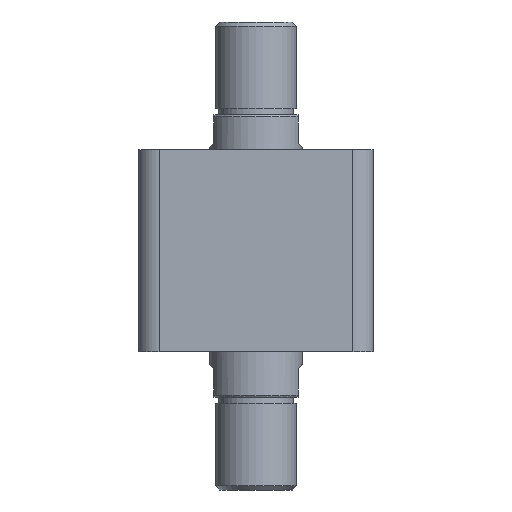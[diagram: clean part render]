
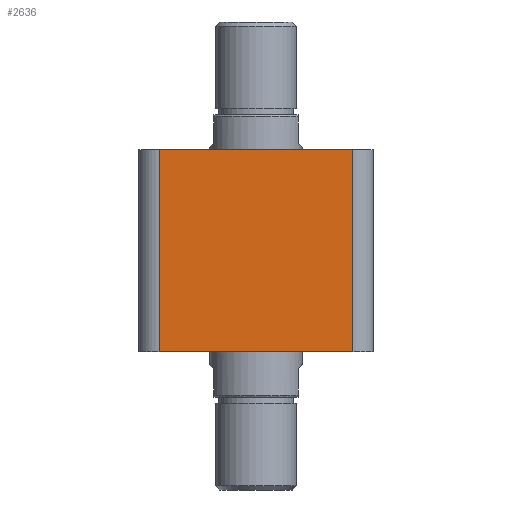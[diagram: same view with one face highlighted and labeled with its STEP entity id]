
A CAD part, front view. The second image highlights one B-rep face of the part: STEP entity #2636.
In plain terms, the highlighted planar face has unit normal (0, -1, 0).
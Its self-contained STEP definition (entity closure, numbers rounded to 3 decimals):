
#298 = CARTESIAN_POINT ( 'NONE',  ( 47., -57., 98. ) ) ;
#308 = CARTESIAN_POINT ( 'NONE',  ( -57., -57., 0. ) ) ;
#309 = DIRECTION ( 'NONE',  ( 1., 0., 0. ) ) ;
#310 = DIRECTION ( 'NONE',  ( 0., 0., 1. ) ) ;
#311 = CARTESIAN_POINT ( 'NONE',  ( -57., -57., 98. ) ) ;
#312 = DIRECTION ( 'NONE',  ( 1., 0., 0. ) ) ;
#313 = CARTESIAN_POINT ( 'NONE',  ( -47., -57., 98. ) ) ;
#314 = DIRECTION ( 'NONE',  ( 0., 0., -1. ) ) ;
#511 = CARTESIAN_POINT ( 'NONE',  ( 47., -57., 98. ) ) ;
#512 = CARTESIAN_POINT ( 'NONE',  ( -47., -57., 98. ) ) ;
#513 = CARTESIAN_POINT ( 'NONE',  ( 47., -57., 0. ) ) ;
#522 = CARTESIAN_POINT ( 'NONE',  ( -47., -57., 0. ) ) ;
#1040 = CARTESIAN_POINT ( 'NONE',  ( -57., -57., 98. ) ) ;
#1042 = PLANE ( 'NONE',  #2397 ) ;
#1045 = DIRECTION ( 'NONE',  ( 0., 1., 0. ) ) ;
#1046 = DIRECTION ( 'NONE',  ( 0., 0., 1. ) ) ;
#1291 = ORIENTED_EDGE ( 'NONE', *, *, #2739, .T. ) ;
#1621 = ORIENTED_EDGE ( 'NONE', *, *, #2738, .T. ) ;
#1660 = FACE_OUTER_BOUND ( 'NONE', #3024, .T. ) ;
#1822 = LINE ( 'NONE', #298, #1833 ) ;
#1828 = LINE ( 'NONE', #308, #1831 ) ;
#1831 = VECTOR ( 'NONE', #309, 1000. ) ;
#1832 = LINE ( 'NONE', #311, #1835 ) ;
#1833 = VECTOR ( 'NONE', #310, 1000. ) ;
#1834 = LINE ( 'NONE', #313, #1837 ) ;
#1835 = VECTOR ( 'NONE', #312, 1000. ) ;
#1837 = VECTOR ( 'NONE', #314, 1000. ) ;
#2397 = AXIS2_PLACEMENT_3D ( 'NONE', #1040, #1045, #1046 ) ;
#2636 = ADVANCED_FACE ( 'NONE', ( #1660 ), #1042, .F. ) ;
#2738 = EDGE_CURVE ( 'NONE', #2882, #2873, #1828, .T. ) ;
#2739 = EDGE_CURVE ( 'NONE', #2873, #2871, #1822, .T. ) ;
#2740 = EDGE_CURVE ( 'NONE', #2872, #2871, #1832, .T. ) ;
#2741 = EDGE_CURVE ( 'NONE', #2872, #2882, #1834, .T. ) ;
#2871 = VERTEX_POINT ( 'NONE', #511 ) ;
#2872 = VERTEX_POINT ( 'NONE', #512 ) ;
#2873 = VERTEX_POINT ( 'NONE', #513 ) ;
#2882 = VERTEX_POINT ( 'NONE', #522 ) ;
#3024 = EDGE_LOOP ( 'NONE', ( #1621, #1291, #3362, #3361 ) ) ;
#3361 = ORIENTED_EDGE ( 'NONE', *, *, #2741, .T. ) ;
#3362 = ORIENTED_EDGE ( 'NONE', *, *, #2740, .F. ) ;
